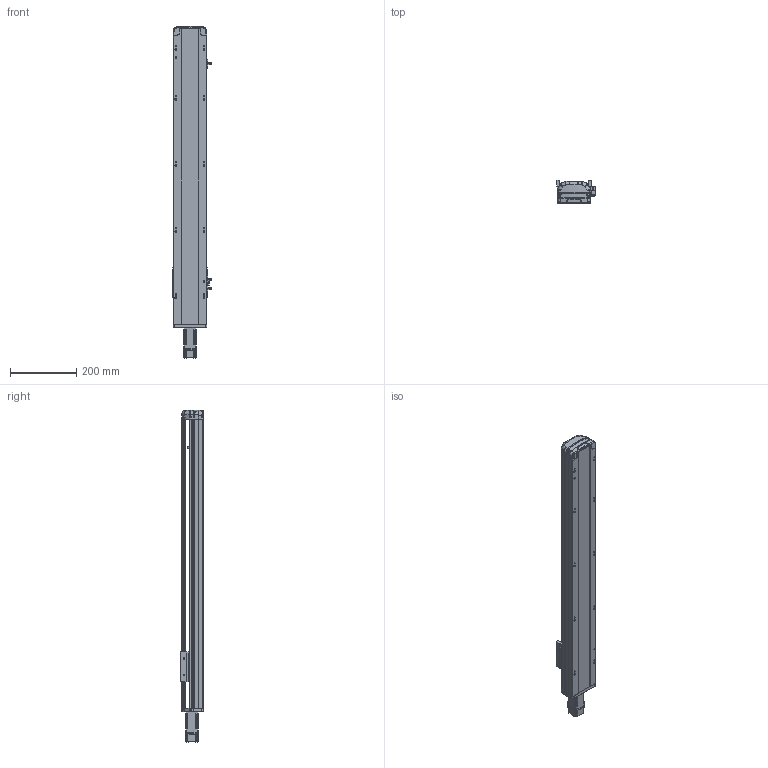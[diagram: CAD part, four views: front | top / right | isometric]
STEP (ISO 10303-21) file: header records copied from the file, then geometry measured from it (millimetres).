
FILE_DESCRIPTION (( 'STEP AP214' ), '1' );
FILE_NAME ('RTH10-XX-650-E-M10-C4.STEP', '2025-10-25T05:25:07', ( 'Microsoft' ), ( 'Microsoft' ), 'SwSTEP 2.0', 'SolidWorks 2018', '' );
FILE_SCHEMA (( 'AUTOMOTIVE_DESIGN' ));
Length unit declared in the file: millimetre
Products named in the file (9): N_RTH12-E-007P-奻裔^RTH10-XX-XX-E-M10-C4; N_P10^RTH10-XX-XX-E-M10-C4; N_RTH13-L-012覜茼え俋离^RTH10-XX-XX-E-M10-C4; N_RTH12-GY-001P^RTH10-XX-XX-E-M10-C4; N_RTH12-E-011P-臏倰第菁釱^RTH10-XX-XX-E-M10-C4; N_RTH12-GY-004-賑釱^RTH10-XX-XX-E-M10-C4; N_RTH12-E-008-M10萇儂啣^RTH10-XX-XX-E-M10-C4; N_OMRON EE-SX672 传感器^RTH10-XX-XX-E-M10-C4; RTH10-XX-650-E-M10-C4
Assembly tree (10 placements, depth 2):
  RTH10-XX-650-E-M10-C4
    N_RTH12-E-011P-臏倰第菁釱^RTH10-XX-XX-E-M10-C4
    N_RTH13-L-012覜茼え俋离^RTH10-XX-XX-E-M10-C4
    N_OMRON EE-SX672 传感器^RTH10-XX-XX-E-M10-C4  x3
    N_P10^RTH10-XX-XX-E-M10-C4
    N_RTH12-E-007P-奻裔^RTH10-XX-XX-E-M10-C4
    N_RTH12-E-008-M10萇儂啣^RTH10-XX-XX-E-M10-C4
    N_RTH12-GY-001P^RTH10-XX-XX-E-M10-C4
    N_RTH12-GY-004-賑釱^RTH10-XX-XX-E-M10-C4
Bounding box: 116.5 x 70 x 1003.34 mm (x, y, z)
Volume: 3640795.6 mm3; surface area: 580807.3 mm2
Topology: 9 solids, 11 shells, 1952 faces, 5431 edges, 3562 vertices
Faces by surface type: plane 972, cylinder 473, bspline 472, cone 33, torus 2
Entity records: 58639 total; most frequent: CARTESIAN_POINT 23254, ORIENTED_EDGE 7942, DIRECTION 6115, EDGE_CURVE 3977, VERTEX_POINT 2606, LINE 2101, VECTOR 2101, AXIS2_PLACEMENT_3D 2007
